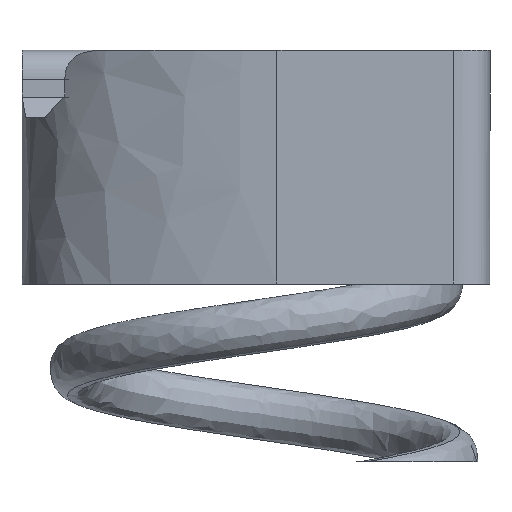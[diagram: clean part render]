
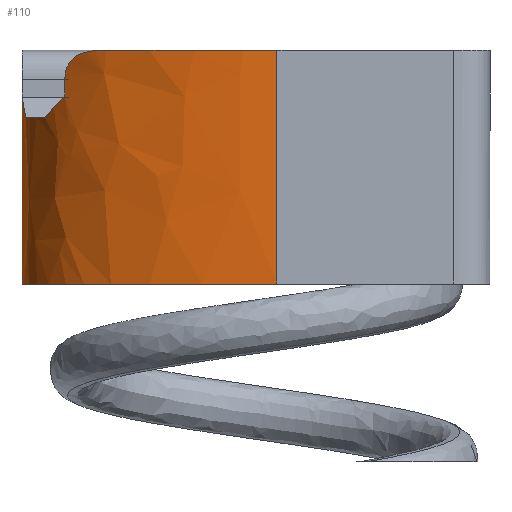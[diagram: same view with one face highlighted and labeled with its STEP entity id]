
A CAD part, left-side view. The second image highlights one B-rep face of the part: STEP entity #110.
In plain terms, the highlighted free-form (B-spline) face has degree [3, 1] with [4, 2] control points.
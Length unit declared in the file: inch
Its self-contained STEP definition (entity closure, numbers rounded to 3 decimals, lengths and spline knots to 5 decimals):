
#110=ADVANCED_FACE('',(#228),#229,.F.);
#228=FACE_OUTER_BOUND('',#786,.T.);
#229=B_SPLINE_SURFACE_WITH_KNOTS('',3,1,((#787,#788),(#789,#790),(#791,#792),(#793,#794)),.UNSPECIFIED.,.F.,.F.,.F.,(4,4),(2,2),(-1.0,-0.0),(0.0,0.55629),.UNSPECIFIED.);
#786=EDGE_LOOP('',(#1454,#1455,#1456,#1457,#1458,#1459,#1460,#1461,#1462,#1463,#1464));
#787=CARTESIAN_POINT('',(0.22426,0.62499,0.04726));
#788=CARTESIAN_POINT('',(0.22426,0.62499,-0.50903));
#789=CARTESIAN_POINT('',(0.0239,0.62499,0.04726));
#790=CARTESIAN_POINT('',(0.0239,0.62499,-0.50903));
#791=CARTESIAN_POINT('',(-0.00003,0.33499,0.04726));
#792=CARTESIAN_POINT('',(-0.00003,0.33499,-0.50903));
#793=CARTESIAN_POINT('',(-0.00003,0.28114,0.04726));
#794=CARTESIAN_POINT('',(-0.00003,0.28114,-0.50903));
#1454=ORIENTED_EDGE('',*,*,#1623,.F.);
#1455=ORIENTED_EDGE('',*,*,#1639,.F.);
#1456=ORIENTED_EDGE('',*,*,#1664,.F.);
#1457=ORIENTED_EDGE('',*,*,#1657,.F.);
#1458=ORIENTED_EDGE('',*,*,#1665,.F.);
#1459=ORIENTED_EDGE('',*,*,#1666,.F.);
#1460=ORIENTED_EDGE('',*,*,#1650,.F.);
#1461=ORIENTED_EDGE('',*,*,#1667,.F.);
#1462=ORIENTED_EDGE('',*,*,#1668,.F.);
#1463=ORIENTED_EDGE('',*,*,#1629,.F.);
#1464=ORIENTED_EDGE('',*,*,#1562,.T.);
#1562=EDGE_CURVE('',#1707,#1704,#1708,.T.);
#1623=EDGE_CURVE('',#1807,#1704,#1809,.T.);
#1629=EDGE_CURVE('',#1707,#1817,#1818,.T.);
#1639=EDGE_CURVE('',#1829,#1807,#1831,.T.);
#1650=EDGE_CURVE('',#1843,#1844,#1845,.T.);
#1657=EDGE_CURVE('',#1853,#1854,#1855,.T.);
#1664=EDGE_CURVE('',#1854,#1829,#1862,.T.);
#1665=EDGE_CURVE('',#1863,#1853,#1864,.T.);
#1666=EDGE_CURVE('',#1844,#1863,#1865,.T.);
#1667=EDGE_CURVE('',#1866,#1843,#1867,.T.);
#1668=EDGE_CURVE('',#1817,#1866,#1868,.T.);
#1704=VERTEX_POINT('',#1946);
#1707=VERTEX_POINT('',#1950);
#1708=LINE('',#1951,#1952);
#1807=VERTEX_POINT('',#2255);
#1809=B_SPLINE_CURVE_WITH_KNOTS('',3,(#2258,#2259,#2260,#2261),.UNSPECIFIED.,.F.,.F.,(4,4),(0.0,1.0),.UNSPECIFIED.);
#1817=VERTEX_POINT('',#2307);
#1818=B_SPLINE_CURVE_WITH_KNOTS('',3,(#2308,#2309,#2310,#2311,#2312,#2313,#2314,#2315),.UNSPECIFIED.,.F.,.F.,(4,2,2,4),(0.0,0.0119,0.02226,0.03347),.UNSPECIFIED.);
#1829=VERTEX_POINT('',#2364);
#1831=B_SPLINE_CURVE_WITH_KNOTS('',3,(#2367,#2368,#2369,#2370,#2371,#2372),.UNSPECIFIED.,.F.,.F.,(4,2,4),(0.0,0.27814,0.40957),.UNSPECIFIED.);
#1843=VERTEX_POINT('',#2399);
#1844=VERTEX_POINT('',#2400);
#1845=B_SPLINE_CURVE_WITH_KNOTS('',3,(#2401,#2402,#2403,#2404,#2405,#2406,#2407,#2408),.UNSPECIFIED.,.F.,.F.,(4,2,2,4),(0.0,0.07132,0.12487,0.17793),.UNSPECIFIED.);
#1853=VERTEX_POINT('',#2432);
#1854=VERTEX_POINT('',#2433);
#1855=B_SPLINE_CURVE_WITH_KNOTS('',3,(#2434,#2435,#2436,#2437,#2438,#2439,#2440,#2441,#2442,#2443,#2444,#2445),.UNSPECIFIED.,.F.,.F.,(4,2,2,2,2,4),(0.0,0.01178,0.02231,0.03299,0.04748,0.06957),.UNSPECIFIED.);
#1862=B_SPLINE_CURVE_WITH_KNOTS('',3,(#2466,#2467,#2468,#2469,#2470,#2471,#2472,#2473),.UNSPECIFIED.,.F.,.F.,(4,2,2,4),(0.0,0.07658,0.19464,0.36871),.UNSPECIFIED.);
#1863=VERTEX_POINT('',#2474);
#1864=B_SPLINE_CURVE_WITH_KNOTS('',3,(#2475,#2476,#2477,#2478),.UNSPECIFIED.,.F.,.F.,(4,4),(0.0,0.12322),.UNSPECIFIED.);
#1865=B_SPLINE_CURVE_WITH_KNOTS('',3,(#2479,#2480,#2481,#2482,#2483,#2484),.UNSPECIFIED.,.F.,.F.,(4,2,4),(0.0,0.08947,0.17822),.UNSPECIFIED.);
#1866=VERTEX_POINT('',#2485);
#1867=B_SPLINE_CURVE_WITH_KNOTS('',3,(#2486,#2487,#2488,#2489),.UNSPECIFIED.,.F.,.F.,(4,4),(0.0,0.11036),.UNSPECIFIED.);
#1868=B_SPLINE_CURVE_WITH_KNOTS('',3,(#2490,#2491,#2492,#2493),.UNSPECIFIED.,.F.,.F.,(4,4),(0.0,0.12322),.UNSPECIFIED.);
#1946=CARTESIAN_POINT('',(0.22426,0.62499,-0.31231));
#1950=CARTESIAN_POINT('',(0.22426,0.62499,-0.00911));
#1951=CARTESIAN_POINT('',(0.22426,0.62499,0.04726));
#1952=VECTOR('',#2523,1.0);
#2255=CARTESIAN_POINT('',(0.,0.28447,-0.31231));
#2258=CARTESIAN_POINT('',(-0.00003,0.28114,-0.31231));
#2259=CARTESIAN_POINT('',(-0.00003,0.33499,-0.31231));
#2260=CARTESIAN_POINT('',(0.0239,0.62499,-0.31231));
#2261=CARTESIAN_POINT('',(0.22426,0.62499,-0.31231));
#2307=CARTESIAN_POINT('',(0.21259,0.62466,-0.03944));
#2308=CARTESIAN_POINT('',(0.22426,0.62499,-0.00911));
#2309=CARTESIAN_POINT('',(0.22134,0.62499,-0.0118));
#2310=CARTESIAN_POINT('',(0.21902,0.62493,-0.01499));
#2311=CARTESIAN_POINT('',(0.21568,0.62482,-0.02161));
#2312=CARTESIAN_POINT('',(0.21455,0.62476,-0.02491));
#2313=CARTESIAN_POINT('',(0.21299,0.62468,-0.03192));
#2314=CARTESIAN_POINT('',(0.21259,0.62466,-0.03573));
#2315=CARTESIAN_POINT('',(0.21259,0.62466,-0.03944));
#2364=CARTESIAN_POINT('',(0.,0.28447,0.));
#2367=CARTESIAN_POINT('',(0.,0.28447,0.04726));
#2368=CARTESIAN_POINT('',(0.,0.28447,-0.04546));
#2369=CARTESIAN_POINT('',(0.,0.28447,-0.13817));
#2370=CARTESIAN_POINT('',(0.,0.28447,-0.27469));
#2371=CARTESIAN_POINT('',(0.,0.28447,-0.3185));
#2372=CARTESIAN_POINT('',(0.,0.28447,-0.36231));
#2399=CARTESIAN_POINT('',(0.1809,0.62004,-0.09006));
#2400=CARTESIAN_POINT('',(0.12486,0.595,-0.09006));
#2401=CARTESIAN_POINT('',(0.22426,0.62499,-0.09006));
#2402=CARTESIAN_POINT('',(0.20049,0.62499,-0.09006));
#2403=CARTESIAN_POINT('',(0.17737,0.62091,-0.09006));
#2404=CARTESIAN_POINT('',(0.13897,0.60486,-0.09006));
#2405=CARTESIAN_POINT('',(0.12399,0.59546,-0.09006));
#2406=CARTESIAN_POINT('',(0.09693,0.57244,-0.09006));
#2407=CARTESIAN_POINT('',(0.08515,0.55915,-0.09006));
#2408=CARTESIAN_POINT('',(0.07486,0.54478,-0.09006));
#2432=CARTESIAN_POINT('',(0.09361,0.5678,-0.03944));
#2433=CARTESIAN_POINT('',(0.05539,0.51335,0.));
#2434=CARTESIAN_POINT('',(0.09361,0.5678,-0.03944));
#2435=CARTESIAN_POINT('',(0.09361,0.5678,-0.03551));
#2436=CARTESIAN_POINT('',(0.09318,0.56734,-0.03106));
#2437=CARTESIAN_POINT('',(0.09104,0.565,-0.02267));
#2438=CARTESIAN_POINT('',(0.08956,0.56336,-0.0191));
#2439=CARTESIAN_POINT('',(0.08579,0.55895,-0.01282));
#2440=CARTESIAN_POINT('',(0.08358,0.55628,-0.0103));
#2441=CARTESIAN_POINT('',(0.07804,0.54922,-0.00555));
#2442=CARTESIAN_POINT('',(0.07465,0.5446,-0.00378));
#2443=CARTESIAN_POINT('',(0.0665,0.53266,-0.00078));
#2444=CARTESIAN_POINT('',(0.06109,0.52397,0.));
#2445=CARTESIAN_POINT('',(0.05539,0.51335,0.));
#2466=CARTESIAN_POINT('',(0.10539,0.57948,0.));
#2467=CARTESIAN_POINT('',(0.08653,0.56227,0.));
#2468=CARTESIAN_POINT('',(0.07115,0.54143,0.));
#2469=CARTESIAN_POINT('',(0.03926,0.48493,0.));
#2470=CARTESIAN_POINT('',(0.02579,0.44582,0.));
#2471=CARTESIAN_POINT('',(0.00313,0.35118,0.));
#2472=CARTESIAN_POINT('',(-0.00003,0.30073,0.));
#2473=CARTESIAN_POINT('',(-0.00003,0.28114,0.));
#2474=CARTESIAN_POINT('',(0.09361,0.5678,-0.06266));
#2475=CARTESIAN_POINT('',(0.09361,0.5678,-0.11266));
#2476=CARTESIAN_POINT('',(0.09361,0.5678,-0.07159));
#2477=CARTESIAN_POINT('',(0.09361,0.5678,-0.03052));
#2478=CARTESIAN_POINT('',(0.09361,0.5678,0.01056));
#2479=CARTESIAN_POINT('',(0.16245,0.61449,-0.12302));
#2480=CARTESIAN_POINT('',(0.14083,0.60659,-0.10407));
#2481=CARTESIAN_POINT('',(0.12077,0.59414,-0.08648));
#2482=CARTESIAN_POINT('',(0.08443,0.55963,-0.05462));
#2483=CARTESIAN_POINT('',(0.06901,0.5385,-0.0411));
#2484=CARTESIAN_POINT('',(0.05601,0.51451,-0.0297));
#2485=CARTESIAN_POINT('',(0.21259,0.62466,-0.06266));
#2486=CARTESIAN_POINT('',(0.22426,0.62499,-0.05257));
#2487=CARTESIAN_POINT('',(0.19643,0.62499,-0.07663));
#2488=CARTESIAN_POINT('',(0.16897,0.6194,-0.10038));
#2489=CARTESIAN_POINT('',(0.14308,0.60597,-0.12277));
#2490=CARTESIAN_POINT('',(0.21259,0.62466,0.01056));
#2491=CARTESIAN_POINT('',(0.21259,0.62466,-0.03052));
#2492=CARTESIAN_POINT('',(0.21259,0.62466,-0.07159));
#2493=CARTESIAN_POINT('',(0.21259,0.62466,-0.11266));
#2523=DIRECTION('',(0.0,0.0,-1.0));
